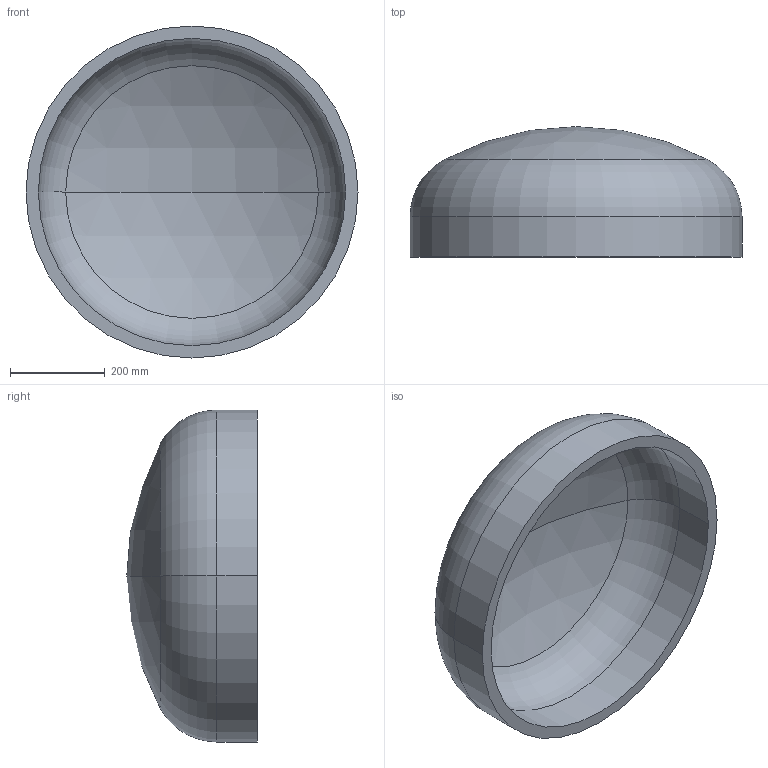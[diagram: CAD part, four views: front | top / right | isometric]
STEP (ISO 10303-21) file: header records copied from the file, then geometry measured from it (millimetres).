
FILE_DESCRIPTION (( 'STEP AP203' ), '1' );
FILE_NAME ('DIN 28013 Korbbogenform_-_Boden DIN 28013 - 700 x 85 - I - s=26.step', '2016-07-01T08:05:57', ( '' ), ( '' ), 'SwSTEP 2.0', 'SolidWorks 2013', '' );
FILE_SCHEMA (( 'CONFIG_CONTROL_DESIGN' ));
Length unit declared in the file: millimetre
Products named in the file (1): DIN 28013 Korbbogenform_-_Boden DIN 28013 - 700 x 85 - I - s=26
Bounding box: 700 x 275.14 x 700 mm (x, y, z)
Volume: 17939553.7 mm3; surface area: 1436434.4 mm2
Topology: 1 solids, 1 shells, 13 faces, 24 edges, 14 vertices
Faces by surface type: torus 4, cylinder 4, sphere 4, plane 1
Entity records: 407 total; most frequent: DIRECTION 72, CARTESIAN_POINT 52, ORIENTED_EDGE 48, AXIS2_PLACEMENT_3D 34, EDGE_CURVE 24, CIRCLE 20, VERTEX_POINT 14, EDGE_LOOP 14
